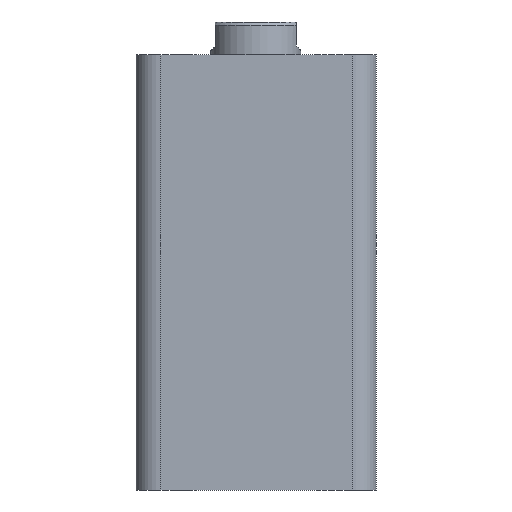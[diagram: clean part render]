
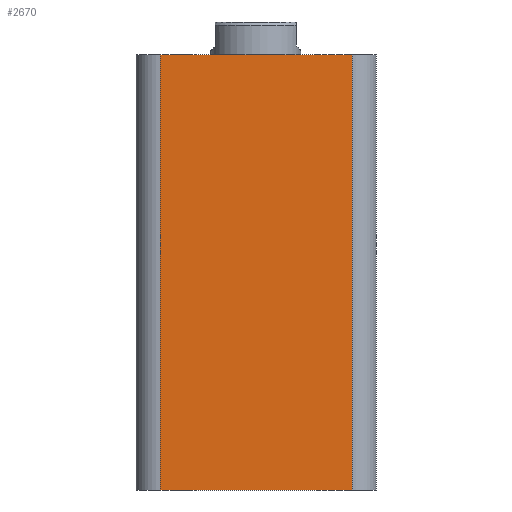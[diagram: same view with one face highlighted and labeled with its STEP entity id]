
A CAD part, front view. The second image highlights one B-rep face of the part: STEP entity #2670.
In plain terms, the highlighted planar face has unit normal (0, -1, 0).
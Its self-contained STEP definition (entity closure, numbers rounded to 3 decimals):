
#54 = CARTESIAN_POINT ( 'NONE',  ( 32., -40., 0. ) ) ;
#66 = CARTESIAN_POINT ( 'NONE',  ( -32., -40., 0. ) ) ;
#75 = CARTESIAN_POINT ( 'NONE',  ( 32., -40., 145. ) ) ;
#149 = CARTESIAN_POINT ( 'NONE',  ( -32., -40., 145. ) ) ;
#276 = FACE_OUTER_BOUND ( 'NONE', #423, .T. ) ;
#423 = EDGE_LOOP ( 'NONE', ( #494, #701, #719, #680 ) ) ;
#494 = ORIENTED_EDGE ( 'NONE', *, *, #1509, .F. ) ;
#680 = ORIENTED_EDGE ( 'NONE', *, *, #1512, .T. ) ;
#701 = ORIENTED_EDGE ( 'NONE', *, *, #1510, .T. ) ;
#719 = ORIENTED_EDGE ( 'NONE', *, *, #1511, .T. ) ;
#943 = DIRECTION ( 'NONE',  ( 0., 0., 1. ) ) ;
#944 = DIRECTION ( 'NONE',  ( 0., 1., 0. ) ) ;
#946 = PLANE ( 'NONE',  #1754 ) ;
#954 = CARTESIAN_POINT ( 'NONE',  ( -40., -40., 145. ) ) ;
#1239 = VERTEX_POINT ( 'NONE', #149 ) ;
#1327 = VERTEX_POINT ( 'NONE', #75 ) ;
#1334 = VERTEX_POINT ( 'NONE', #66 ) ;
#1355 = VERTEX_POINT ( 'NONE', #54 ) ;
#1509 = EDGE_CURVE ( 'NONE', #1239, #1327, #2495, .T. ) ;
#1510 = EDGE_CURVE ( 'NONE', #1239, #1334, #2493, .T. ) ;
#1511 = EDGE_CURVE ( 'NONE', #1334, #1355, #2501, .T. ) ;
#1512 = EDGE_CURVE ( 'NONE', #1355, #1327, #2489, .T. ) ;
#1754 = AXIS2_PLACEMENT_3D ( 'NONE', #954, #944, #943 ) ;
#2316 = DIRECTION ( 'NONE',  ( 0., 0., 1. ) ) ;
#2322 = DIRECTION ( 'NONE',  ( 1., 0., 0. ) ) ;
#2324 = DIRECTION ( 'NONE',  ( 0., 0., -1. ) ) ;
#2326 = CARTESIAN_POINT ( 'NONE',  ( -32., -40., 145. ) ) ;
#2332 = DIRECTION ( 'NONE',  ( 1., 0., 0. ) ) ;
#2333 = CARTESIAN_POINT ( 'NONE',  ( -40., -40., 145. ) ) ;
#2354 = CARTESIAN_POINT ( 'NONE',  ( 32., -40., 145. ) ) ;
#2398 = CARTESIAN_POINT ( 'NONE',  ( -40., -40., 0. ) ) ;
#2486 = VECTOR ( 'NONE', #2316, 1000. ) ;
#2488 = VECTOR ( 'NONE', #2322, 1000. ) ;
#2489 = LINE ( 'NONE', #2354, #2486 ) ;
#2490 = VECTOR ( 'NONE', #2324, 1000. ) ;
#2492 = VECTOR ( 'NONE', #2332, 1000. ) ;
#2493 = LINE ( 'NONE', #2326, #2490 ) ;
#2495 = LINE ( 'NONE', #2333, #2492 ) ;
#2501 = LINE ( 'NONE', #2398, #2488 ) ;
#2670 = ADVANCED_FACE ( 'NONE', ( #276 ), #946, .F. ) ;
